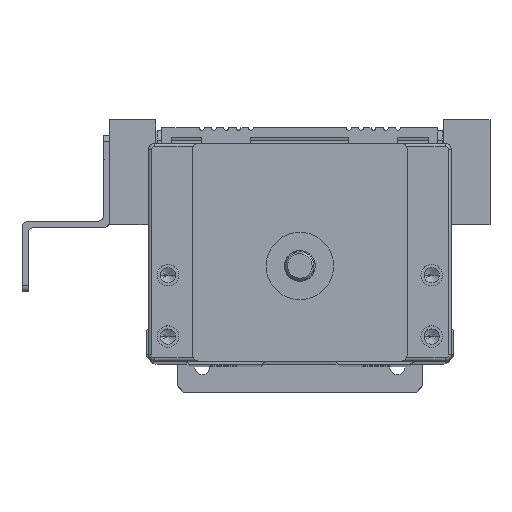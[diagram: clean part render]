
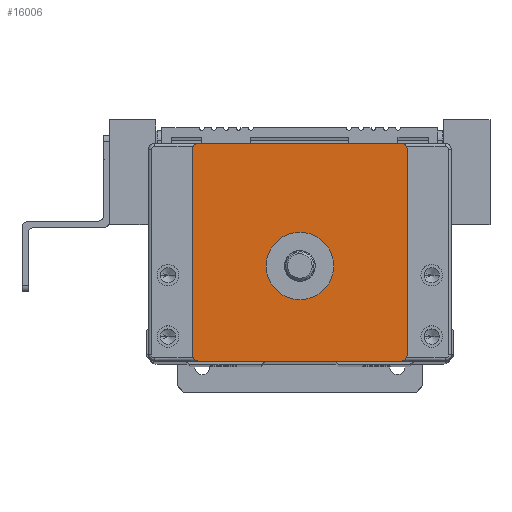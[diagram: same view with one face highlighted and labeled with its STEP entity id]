
A CAD part, top view. The second image highlights one B-rep face of the part: STEP entity #16006.
In plain terms, the highlighted planar face has unit normal (0, 0, 1).
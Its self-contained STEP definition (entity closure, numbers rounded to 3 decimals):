
#1097 = VERTEX_POINT ( 'NONE', #17897 ) ;
#1245 = VECTOR ( 'NONE', #15575, 1000. ) ;
#1260 = EDGE_CURVE ( 'NONE', #24276, #9217, #14444, .T. ) ;
#1405 = AXIS2_PLACEMENT_3D ( 'NONE', #3411, #20679, #5906 ) ;
#1520 = VERTEX_POINT ( 'NONE', #10700 ) ;
#1717 = EDGE_CURVE ( 'NONE', #3959, #31734, #11725, .T. ) ;
#1969 = CIRCLE ( 'NONE', #26702, 1. ) ;
#2037 = CARTESIAN_POINT ( 'NONE',  ( 17.5, -16.75, 10. ) ) ;
#2300 = DIRECTION ( 'NONE',  ( -1., 0., 0. ) ) ;
#2578 = CARTESIAN_POINT ( 'NONE',  ( -17.5, 16.75, 10. ) ) ;
#2948 = CARTESIAN_POINT ( 'NONE',  ( 16.5, -17.75, 10. ) ) ;
#3048 = CARTESIAN_POINT ( 'NONE',  ( -16.5, -17.75, 10. ) ) ;
#3411 = CARTESIAN_POINT ( 'NONE',  ( 16.5, -16.75, 10. ) ) ;
#3469 = CARTESIAN_POINT ( 'NONE',  ( 16.5, 17.75, 10. ) ) ;
#3500 = AXIS2_PLACEMENT_3D ( 'NONE', #8437, #25646, #10910 ) ;
#3959 = VERTEX_POINT ( 'NONE', #3048 ) ;
#4867 = ORIENTED_EDGE ( 'NONE', *, *, #27304, .T. ) ;
#5245 = CIRCLE ( 'NONE', #1405, 1. ) ;
#5434 = AXIS2_PLACEMENT_3D ( 'NONE', #9945, #29594, #14912 ) ;
#5513 = DIRECTION ( 'NONE',  ( 1., 0., 0. ) ) ;
#5589 = CARTESIAN_POINT ( 'NONE',  ( 24.7, -17.75, 10. ) ) ;
#5906 = DIRECTION ( 'NONE',  ( -1., 0., 0. ) ) ;
#6090 = DIRECTION ( 'NONE',  ( 0., 0., 1. ) ) ;
#7608 = ORIENTED_EDGE ( 'NONE', *, *, #1717, .T. ) ;
#8177 = AXIS2_PLACEMENT_3D ( 'NONE', #14650, #31805, #17120 ) ;
#8437 = CARTESIAN_POINT ( 'NONE',  ( 16.5, 16.75, 10. ) ) ;
#8707 = CARTESIAN_POINT ( 'NONE',  ( 0., -2.25, 10. ) ) ;
#9081 = ORIENTED_EDGE ( 'NONE', *, *, #27488, .T. ) ;
#9217 = VERTEX_POINT ( 'NONE', #17288 ) ;
#9370 = CARTESIAN_POINT ( 'NONE',  ( 24.7, 17.75, 10. ) ) ;
#9540 = VERTEX_POINT ( 'NONE', #13485 ) ;
#9945 = CARTESIAN_POINT ( 'NONE',  ( 0., 0., 10. ) ) ;
#10257 = FACE_BOUND ( 'NONE', #16395, .T. ) ;
#10350 = ORIENTED_EDGE ( 'NONE', *, *, #1260, .T. ) ;
#10581 = VECTOR ( 'NONE', #19284, 1000. ) ;
#10700 = CARTESIAN_POINT ( 'NONE',  ( -17.5, -16.75, 10. ) ) ;
#10910 = DIRECTION ( 'NONE',  ( -1., 0., 0. ) ) ;
#11192 = DIRECTION ( 'NONE',  ( -1., 0., 0. ) ) ;
#11397 = EDGE_LOOP ( 'NONE', ( #15568, #29120, #23184, #4867, #7608, #12320, #10350, #15180 ) ) ;
#11725 = LINE ( 'NONE', #5589, #16724 ) ;
#12320 = ORIENTED_EDGE ( 'NONE', *, *, #24563, .T. ) ;
#13485 = CARTESIAN_POINT ( 'NONE',  ( -5.5, -2.25, 10. ) ) ;
#14444 = LINE ( 'NONE', #15648, #1245 ) ;
#14650 = CARTESIAN_POINT ( 'NONE',  ( -16.5, 16.75, 10. ) ) ;
#14912 = DIRECTION ( 'NONE',  ( 1., 0., 0. ) ) ;
#15180 = ORIENTED_EDGE ( 'NONE', *, *, #25126, .T. ) ;
#15568 = ORIENTED_EDGE ( 'NONE', *, *, #25861, .T. ) ;
#15575 = DIRECTION ( 'NONE',  ( 0., 1., 0. ) ) ;
#15648 = CARTESIAN_POINT ( 'NONE',  ( 17.5, 0., 10. ) ) ;
#16006 = ADVANCED_FACE ( 'NONE', ( #10257, #17588 ), #27133, .T. ) ;
#16136 = CIRCLE ( 'NONE', #20759, 5.5 ) ;
#16216 = AXIS2_PLACEMENT_3D ( 'NONE', #31375, #16685, #2300 ) ;
#16395 = EDGE_LOOP ( 'NONE', ( #9081, #17090 ) ) ;
#16685 = DIRECTION ( 'NONE',  ( 0., 0., -1. ) ) ;
#16724 = VECTOR ( 'NONE', #5513, 1000. ) ;
#16811 = CIRCLE ( 'NONE', #3500, 1. ) ;
#17090 = ORIENTED_EDGE ( 'NONE', *, *, #21945, .T. ) ;
#17120 = DIRECTION ( 'NONE',  ( -1., 0., 0. ) ) ;
#17133 = CARTESIAN_POINT ( 'NONE',  ( 5.5, -2.25, 10. ) ) ;
#17288 = CARTESIAN_POINT ( 'NONE',  ( 17.5, 16.75, 10. ) ) ;
#17356 = VECTOR ( 'NONE', #29246, 1000. ) ;
#17455 = VERTEX_POINT ( 'NONE', #17133 ) ;
#17588 = FACE_OUTER_BOUND ( 'NONE', #11397, .T. ) ;
#17897 = CARTESIAN_POINT ( 'NONE',  ( -16.5, 17.75, 10. ) ) ;
#18119 = LINE ( 'NONE', #26799, #17356 ) ;
#19156 = VERTEX_POINT ( 'NONE', #3469 ) ;
#19284 = DIRECTION ( 'NONE',  ( -1., 0., 0. ) ) ;
#20220 = EDGE_CURVE ( 'NONE', #26589, #1520, #18119, .T. ) ;
#20679 = DIRECTION ( 'NONE',  ( 0., 0., 1. ) ) ;
#20759 = AXIS2_PLACEMENT_3D ( 'NONE', #8707, #25919, #11192 ) ;
#20863 = CARTESIAN_POINT ( 'NONE',  ( -16.5, -16.75, 10. ) ) ;
#21945 = EDGE_CURVE ( 'NONE', #17455, #9540, #16136, .T. ) ;
#22021 = CIRCLE ( 'NONE', #16216, 5.5 ) ;
#23184 = ORIENTED_EDGE ( 'NONE', *, *, #20220, .T. ) ;
#23327 = DIRECTION ( 'NONE',  ( -1., 0., 0. ) ) ;
#23666 = LINE ( 'NONE', #9370, #10581 ) ;
#23880 = CIRCLE ( 'NONE', #8177, 1. ) ;
#24276 = VERTEX_POINT ( 'NONE', #2037 ) ;
#24563 = EDGE_CURVE ( 'NONE', #31734, #24276, #5245, .T. ) ;
#25126 = EDGE_CURVE ( 'NONE', #9217, #19156, #16811, .T. ) ;
#25646 = DIRECTION ( 'NONE',  ( 0., 0., 1. ) ) ;
#25861 = EDGE_CURVE ( 'NONE', #19156, #1097, #23666, .T. ) ;
#25919 = DIRECTION ( 'NONE',  ( 0., 0., -1. ) ) ;
#26589 = VERTEX_POINT ( 'NONE', #2578 ) ;
#26702 = AXIS2_PLACEMENT_3D ( 'NONE', #20863, #6090, #23327 ) ;
#26799 = CARTESIAN_POINT ( 'NONE',  ( -17.5, 0., 10. ) ) ;
#27133 = PLANE ( 'NONE',  #5434 ) ;
#27304 = EDGE_CURVE ( 'NONE', #1520, #3959, #1969, .T. ) ;
#27488 = EDGE_CURVE ( 'NONE', #9540, #17455, #22021, .T. ) ;
#28752 = EDGE_CURVE ( 'NONE', #1097, #26589, #23880, .T. ) ;
#29120 = ORIENTED_EDGE ( 'NONE', *, *, #28752, .T. ) ;
#29246 = DIRECTION ( 'NONE',  ( 0., -1., 0. ) ) ;
#29594 = DIRECTION ( 'NONE',  ( 0., 0., 1. ) ) ;
#31375 = CARTESIAN_POINT ( 'NONE',  ( 0., -2.25, 10. ) ) ;
#31734 = VERTEX_POINT ( 'NONE', #2948 ) ;
#31805 = DIRECTION ( 'NONE',  ( 0., 0., 1. ) ) ;
